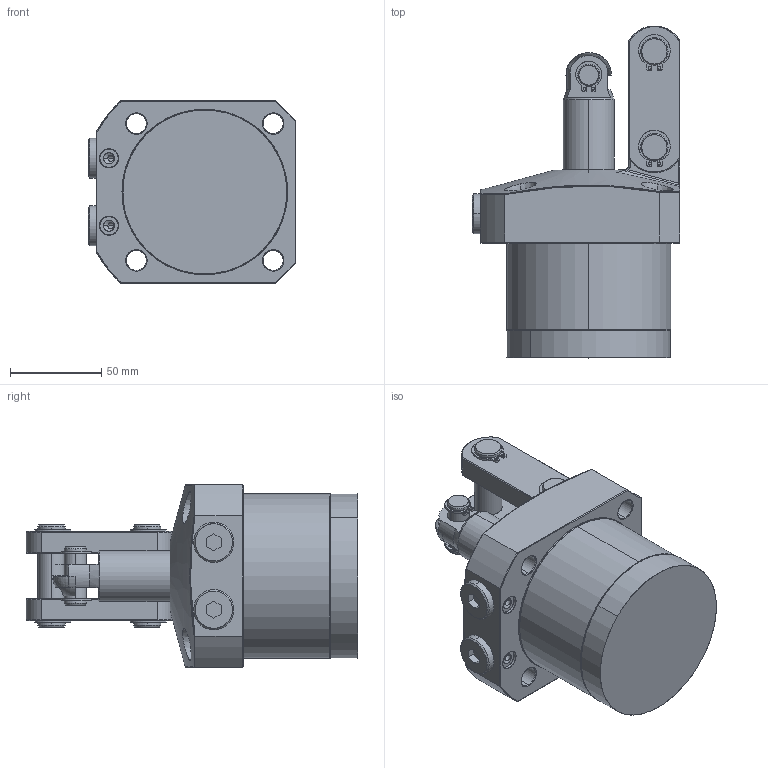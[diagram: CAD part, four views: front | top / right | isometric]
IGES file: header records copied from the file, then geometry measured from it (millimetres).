
Start section: SolidWorks IGES file using analytic representation for surfaces
Global section: file name: D:\abhilash\nijil\cylinder\LKA Series\con v lka\lk900\lk90cc\90CC PT\0402-0901.IGS; native system: SolidWorks 2010; preprocessor: SolidWorks 2010; author: nidheesh; date: 130730.102447; units: millimetre
Bounding box: 114 x 181.95 x 100 mm (x, y, z)
Surface area: 90702.4 mm2 (no closed solid volume)
Topology: 0 solids, 0 shells, 350 faces, 5013 edges, 5012 vertices
Faces by surface type: revolution 201, bspline 149
